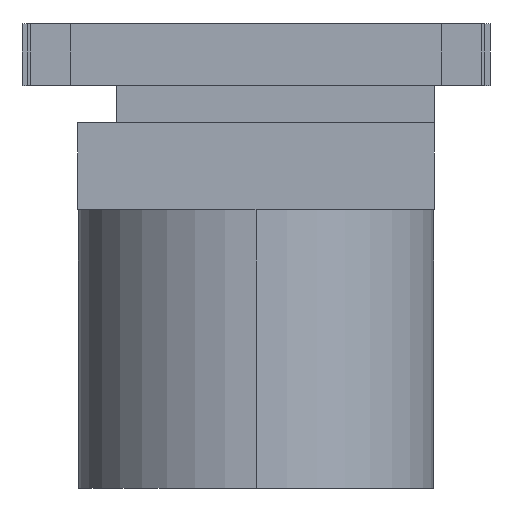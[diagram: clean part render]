
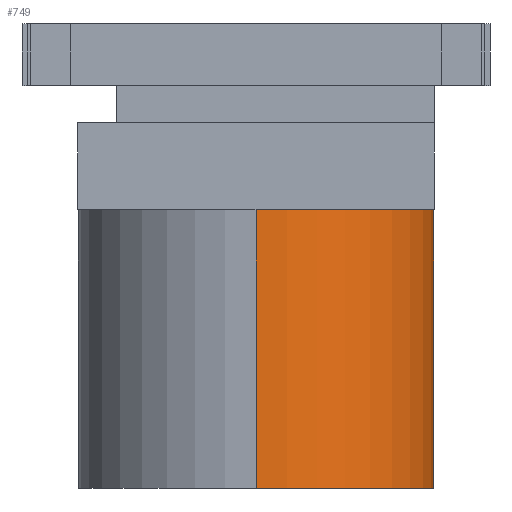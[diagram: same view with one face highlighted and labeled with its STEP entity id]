
A CAD part, left-side view. The second image highlights one B-rep face of the part: STEP entity #749.
In plain terms, the highlighted cylindrical face has radius 57.35 mm (diameter 114.7 mm), a partial arc.
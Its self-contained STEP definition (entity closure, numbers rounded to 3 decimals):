
#75=FACE_OUTER_BOUND('',#123,.T.);
#123=EDGE_LOOP('',(#543,#544,#545,#546));
#173=LINE('',#1085,#271);
#174=LINE('',#1088,#272);
#271=VECTOR('',#881,304.8);
#272=VECTOR('',#884,304.8);
#369=CIRCLE('',#824,57.35);
#370=CIRCLE('',#825,57.35);
#373=VERTEX_POINT('',#1081);
#374=VERTEX_POINT('',#1082);
#375=VERTEX_POINT('',#1084);
#376=VERTEX_POINT('',#1086);
#441=EDGE_CURVE('',#373,#374,#369,.T.);
#442=EDGE_CURVE('',#375,#373,#173,.T.);
#443=EDGE_CURVE('',#376,#375,#370,.T.);
#444=EDGE_CURVE('',#374,#376,#174,.T.);
#543=ORIENTED_EDGE('',*,*,#441,.F.);
#544=ORIENTED_EDGE('',*,*,#442,.F.);
#545=ORIENTED_EDGE('',*,*,#443,.F.);
#546=ORIENTED_EDGE('',*,*,#444,.F.);
#747=CYLINDRICAL_SURFACE('',#823,57.35);
#749=ADVANCED_FACE('',(#75),#747,.T.);
#823=AXIS2_PLACEMENT_3D('',#1080,#877,#878);
#824=AXIS2_PLACEMENT_3D('',#1083,#879,#880);
#825=AXIS2_PLACEMENT_3D('',#1087,#882,#883);
#877=DIRECTION('center_axis',(0.,0.,1.));
#878=DIRECTION('ref_axis',(-1.,0.,0.));
#879=DIRECTION('center_axis',(0.,0.,1.));
#880=DIRECTION('ref_axis',(-1.,0.,0.));
#881=DIRECTION('',(0.,0.,1.));
#882=DIRECTION('center_axis',(0.,0.,-1.));
#883=DIRECTION('ref_axis',(-1.,0.,0.));
#884=DIRECTION('',(0.,0.,-1.));
#1080=CARTESIAN_POINT('Origin',(0.,0.,
-150.));
#1081=CARTESIAN_POINT('',(-57.35,0.,-32.));
#1082=CARTESIAN_POINT('',(57.35,0.,-32.));
#1083=CARTESIAN_POINT('Origin',(0.,0.,
-32.));
#1084=CARTESIAN_POINT('',(-57.35,0.,-150.));
#1085=CARTESIAN_POINT('',(-57.35,0.,-150.));
#1086=CARTESIAN_POINT('',(57.35,0.,-150.));
#1087=CARTESIAN_POINT('Origin',(0.,0.,
-150.));
#1088=CARTESIAN_POINT('',(57.35,0.,-32.));
